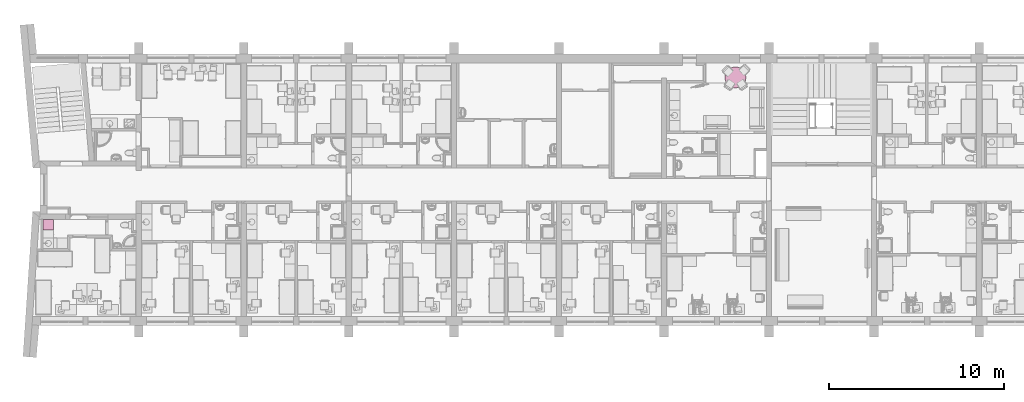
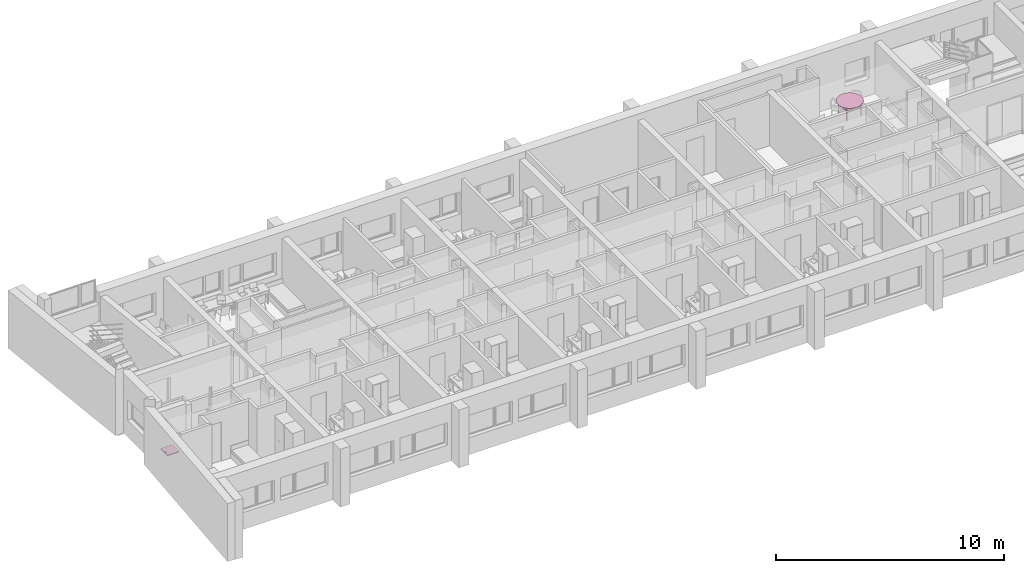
# One storey, part 171 of 172: 2 furnishings.
"""IFC2X3 building model written with IfcOpenShell, lengths in millimetres."""

from ifc_helpers import new_model, entity, si_unit, converted_unit, money_unit, direction, frame, origin_with_axes, place, context, subcontext, project, spatial, faceted_brep, material, material_list, type_object, element, save


model = new_model("IFC2X3")

# Units and contexts
model_context = context("Model", 3, precision=1e-05, world=origin_with_axes(), true_north=direction((0.0, 1.0)))
body_context = subcontext(model_context, "Body", "Model", "MODEL_VIEW")
ifc_project = project(units=[si_unit("LENGTHUNIT", "METRE", prefix="MILLI"), si_unit("AREAUNIT", "SQUARE_METRE"), si_unit("VOLUMEUNIT", "CUBIC_METRE"), converted_unit("PLANEANGLEUNIT", "DEGREE", entity("IfcPlaneAngleMeasure", 0.0174532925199), si_unit("PLANEANGLEUNIT", "RADIAN"), dimensions=[0, 0, 0, 0, 0, 0, 0]), si_unit("SOLIDANGLEUNIT", "STERADIAN"), money_unit("USD"), converted_unit("TIMEUNIT", "Year", entity("IfcTimeMeasure", 31556926.0), si_unit("TIMEUNIT", "SECOND"), dimensions=[0, 0, 0, 0, 0, 0, 0]), si_unit("MASSUNIT", "GRAM"), si_unit("THERMODYNAMICTEMPERATUREUNIT", "DEGREE_CELSIUS"), si_unit("LUMINOUSINTENSITYUNIT", "LUMEN")], contexts=[model_context])

# Site, building, storey
site_placement = place(None, origin_with_axes())
site = spatial("IfcSite", under=ifc_project, at=site_placement, Name="Site", CompositionType="ELEMENT")
building_placement = place(site_placement, origin_with_axes())
building = spatial("IfcBuilding", under=site, at=building_placement, Name="Building", CompositionType="ELEMENT")
storey_placement = place(building_placement, frame((0.0, 0.0, 3200.0), z_axis=(0.0, 0.0, 1.0), x_axis=(1.0, 0.0, 0.0)))
storey = spatial("IfcBuildingStorey", under=building, at=storey_placement, Name="3KORRUS", CompositionType="ELEMENT", Elevation=3200.0)

# Furnishings
ifc_material = material(Name="Background")
ifc_material_list = material_list([ifc_material])
furnishing_element_type_1 = type_object("IfcFurnishingElementType", Name="Built-in Cooktops 19")
furnishing_1_placement = place(storey_placement, frame((-53008.4921105, -14683.6487515, 0.0), z_axis=(0.0, 0.0, 1.0), x_axis=(0.0, 1.0, 0.0)))
element("IfcFurnishingElement", 1, at=furnishing_1_placement, inside=storey, type_object=furnishing_element_type_1, material=ifc_material_list, Name="FU - 007", context=body_context, shape_type="Brep", body=[
    faceted_brep([(0.0, 0.0, 850.0), (596.311, 0.0, 850.0), (596.311, 0.0, 900.0), (0.0, 0.0, 900.0), (0.0, 600.0, 850.0), (596.311, 600.0, 850.0), (596.311, 600.0, 900.0), (0.0, 600.0, 900.0)], [[[0, 1, 2, 3]], [[0, 4, 5, 1]], [[1, 5, 6, 2]], [[3, 2, 6, 7]], [[4, 0, 3, 7]], [[5, 4, 7, 6]]]),
    faceted_brep([(163.156, 55.0, 900.0), (163.156, 545.0, 900.0), (433.156, 545.0, 900.0), (433.156, 55.0, 900.0), (163.156, 55.0, 900.8), (163.156, 545.0, 900.8), (433.156, 545.0, 900.8), (433.156, 55.0, 900.8), (169.961, 61.806, 902.0), (169.961, 538.194, 902.0), (426.35, 538.194, 902.0), (426.35, 61.806, 902.0)], [[[0, 1, 2, 3]], [[1, 0, 4, 5]], [[2, 1, 5, 6]], [[3, 2, 6, 7]], [[0, 3, 7, 4]], [[5, 4, 8, 9]], [[6, 5, 9, 10]], [[7, 6, 10, 11]], [[4, 7, 11, 8]], [[10, 9, 8, 11]]]),
    faceted_brep([(193.156, 409.27, 902.0), (207.223, 356.77, 902.0), (207.223, 356.77, 903.0), (193.156, 409.27, 903.0), (207.223, 461.77, 902.0), (245.656, 500.203, 902.0), (298.156, 514.27, 902.0), (350.656, 500.203, 902.0), (389.088, 461.77, 902.0), (403.156, 409.27, 902.0), (389.088, 356.77, 902.0), (350.656, 318.337, 902.0), (298.156, 304.27, 902.0), (245.656, 318.337, 902.0), (198.156, 409.27, 902.0), (211.553, 359.27, 902.0), (248.156, 322.667, 902.0), (298.156, 309.27, 902.0), (348.156, 322.667, 902.0), (384.758, 359.27, 902.0), (398.156, 409.27, 902.0), (384.758, 459.27, 902.0), (348.156, 495.873, 902.0), (298.156, 509.27, 902.0), (248.156, 495.873, 902.0), (211.553, 459.27, 902.0), (245.656, 318.337, 903.0), (298.156, 304.27, 903.0), (350.656, 318.337, 903.0), (389.088, 356.77, 903.0), (403.156, 409.27, 903.0), (389.088, 461.77, 903.0), (350.656, 500.203, 903.0), (298.156, 514.27, 903.0), (245.656, 500.203, 903.0), (207.223, 461.77, 903.0), (198.156, 409.27, 903.0), (211.553, 459.27, 903.0), (248.156, 495.873, 903.0), (298.156, 509.27, 903.0), (348.156, 495.873, 903.0), (384.758, 459.27, 903.0), (398.156, 409.27, 903.0), (384.758, 359.27, 903.0), (348.156, 322.667, 903.0), (298.156, 309.27, 903.0), (248.156, 322.667, 903.0), (211.553, 359.27, 903.0)], [[[0, 1, 2, 3]], [[0, 4, 5, 6, 7, 8, 9, 10, 11, 12, 13, 1], [14, 15, 16, 17, 18, 19, 20, 21, 22, 23, 24, 25]], [[1, 13, 26, 2]], [[3, 2, 26, 27, 28, 29, 30, 31, 32, 33, 34, 35], [36, 37, 38, 39, 40, 41, 42, 43, 44, 45, 46, 47]], [[4, 0, 3, 35]], [[5, 4, 35, 34]], [[6, 5, 34, 33]], [[7, 6, 33, 32]], [[8, 7, 32, 31]], [[9, 8, 31, 30]], [[10, 9, 30, 29]], [[11, 10, 29, 28]], [[12, 11, 28, 27]], [[13, 12, 27, 26]], [[15, 14, 36, 47]], [[16, 15, 47, 46]], [[17, 16, 46, 45]], [[18, 17, 45, 44]], [[19, 18, 44, 43]], [[20, 19, 43, 42]], [[21, 20, 42, 41]], [[22, 21, 41, 40]], [[23, 22, 40, 39]], [[24, 23, 39, 38]], [[25, 24, 38, 37]], [[14, 25, 37, 36]]]),
    faceted_brep([(225.656, 200.53, 902.0), (235.369, 164.28, 902.0), (235.369, 164.28, 903.0), (225.656, 200.53, 903.0), (235.369, 236.78, 902.0), (261.906, 263.317, 902.0), (298.156, 273.03, 902.0), (334.406, 263.317, 902.0), (360.942, 236.78, 902.0), (370.656, 200.53, 902.0), (360.942, 164.28, 902.0), (334.406, 137.743, 902.0), (298.156, 128.03, 902.0), (261.906, 137.743, 902.0), (230.656, 200.53, 902.0), (239.699, 166.78, 902.0), (264.406, 142.073, 902.0), (298.156, 133.03, 902.0), (331.906, 142.073, 902.0), (356.612, 166.78, 902.0), (365.656, 200.53, 902.0), (356.612, 234.28, 902.0), (331.906, 258.987, 902.0), (298.156, 268.03, 902.0), (264.406, 258.987, 902.0), (239.699, 234.28, 902.0), (261.906, 137.743, 903.0), (298.156, 128.03, 903.0), (334.406, 137.743, 903.0), (360.942, 164.28, 903.0), (370.656, 200.53, 903.0), (360.942, 236.78, 903.0), (334.406, 263.317, 903.0), (298.156, 273.03, 903.0), (261.906, 263.317, 903.0), (235.369, 236.78, 903.0), (230.656, 200.53, 903.0), (239.699, 234.28, 903.0), (264.406, 258.987, 903.0), (298.156, 268.03, 903.0), (331.906, 258.987, 903.0), (356.612, 234.28, 903.0), (365.656, 200.53, 903.0), (356.612, 166.78, 903.0), (331.906, 142.073, 903.0), (298.156, 133.03, 903.0), (264.406, 142.073, 903.0), (239.699, 166.78, 903.0)], [[[0, 1, 2, 3]], [[0, 4, 5, 6, 7, 8, 9, 10, 11, 12, 13, 1], [14, 15, 16, 17, 18, 19, 20, 21, 22, 23, 24, 25]], [[1, 13, 26, 2]], [[3, 2, 26, 27, 28, 29, 30, 31, 32, 33, 34, 35], [36, 37, 38, 39, 40, 41, 42, 43, 44, 45, 46, 47]], [[4, 0, 3, 35]], [[5, 4, 35, 34]], [[6, 5, 34, 33]], [[7, 6, 33, 32]], [[8, 7, 32, 31]], [[9, 8, 31, 30]], [[10, 9, 30, 29]], [[11, 10, 29, 28]], [[12, 11, 28, 27]], [[13, 12, 27, 26]], [[15, 14, 36, 47]], [[16, 15, 47, 46]], [[17, 16, 46, 45]], [[18, 17, 45, 44]], [[19, 18, 44, 43]], [[20, 19, 43, 42]], [[21, 20, 42, 41]], [[22, 21, 41, 40]], [[23, 22, 40, 39]], [[24, 23, 39, 38]], [[25, 24, 38, 37]], [[14, 25, 37, 36]]]),
])
furnishing_element_type_2 = type_object("IfcFurnishingElementType", Name="Round Table 01 19")
furnishing_2_placement = place(storey_placement, frame((-14063.97146, -5976.75344448, 0.0), z_axis=(0.0, 0.0, 1.0), x_axis=(0.0, 1.0, 0.0)))
element("IfcFurnishingElement", 2, at=furnishing_2_placement, inside=storey, type_object=furnishing_element_type_2, material=ifc_material_list, Name="FU - 004", context=body_context, shape_type="Brep", body=[
    faceted_brep([(383.909, 373.909, 0.0), (383.909, 343.909, 0.0), (333.909, 343.909, 0.0), (333.909, 373.909, 0.0), (383.909, 373.909, 725.0), (383.909, 343.909, 725.0), (333.909, 343.909, 725.0), (333.909, 373.909, 725.0)], [[[0, 1, 2, 3]], [[1, 0, 4, 5]], [[2, 1, 5, 6]], [[3, 2, 6, 7]], [[0, 3, 7, 4]], [[5, 4, 7, 6]]]),
    faceted_brep([(-333.909, 373.909, 0.0), (-333.909, 343.909, 0.0), (-383.909, 343.909, 0.0), (-383.909, 373.909, 0.0), (-333.909, 373.909, 725.0), (-333.909, 343.909, 725.0), (-383.909, 343.909, 725.0), (-383.909, 373.909, 725.0)], [[[0, 1, 2, 3]], [[1, 0, 4, 5]], [[2, 1, 5, 6]], [[3, 2, 6, 7]], [[0, 3, 7, 4]], [[5, 4, 7, 6]]]),
    faceted_brep([(-383.909, -373.909, 0.0), (-383.909, -343.909, 0.0), (-333.909, -343.909, 0.0), (-333.909, -373.909, 0.0), (-383.909, -373.909, 725.0), (-383.909, -343.909, 725.0), (-333.909, -343.909, 725.0), (-333.909, -373.909, 725.0)], [[[0, 1, 2, 3]], [[1, 0, 4, 5]], [[2, 1, 5, 6]], [[3, 2, 6, 7]], [[0, 3, 7, 4]], [[5, 4, 7, 6]]]),
    faceted_brep([(333.909, -373.909, 0.0), (333.909, -343.909, 0.0), (383.909, -343.909, 0.0), (383.909, -373.909, 0.0), (333.909, -373.909, 725.0), (333.909, -343.909, 725.0), (383.909, -343.909, 725.0), (383.909, -373.909, 725.0)], [[[0, 1, 2, 3]], [[1, 0, 4, 5]], [[2, 1, 5, 6]], [[3, 2, 6, 7]], [[0, 3, 7, 4]], [[5, 4, 7, 6]]]),
    faceted_brep([(580.0, 0.0, 725.0), (567.326, 120.589, 725.0), (567.326, 120.589, 750.0), (580.0, 0.0, 750.0), (567.326, -120.589, 725.0), (529.856, -235.907, 725.0), (469.23, -340.915, 725.0), (388.096, -431.024, 725.0), (290.0, -502.295, 725.0), (179.23, -551.613, 725.0), (60.627, -576.823, 725.0), (-60.627, -576.823, 725.0), (-179.23, -551.613, 725.0), (-290.0, -502.295, 725.0), (-388.096, -431.024, 725.0), (-469.23, -340.915, 725.0), (-529.856, -235.907, 725.0), (-567.326, -120.589, 725.0), (-580.0, 0.0, 725.0), (-567.326, 120.589, 725.0), (-529.856, 235.907, 725.0), (-469.23, 340.915, 725.0), (-388.096, 431.024, 725.0), (-290.0, 502.295, 725.0), (-179.23, 551.613, 725.0), (-60.627, 576.823, 725.0), (60.627, 576.823, 725.0), (179.23, 551.613, 725.0), (290.0, 502.295, 725.0), (388.096, 431.024, 725.0), (469.23, 340.915, 725.0), (529.856, 235.907, 725.0), (529.856, 235.907, 750.0), (469.23, 340.915, 750.0), (388.096, 431.024, 750.0), (290.0, 502.295, 750.0), (179.23, 551.613, 750.0), (60.627, 576.823, 750.0), (-60.627, 576.823, 750.0), (-179.23, 551.613, 750.0), (-290.0, 502.295, 750.0), (-388.096, 431.024, 750.0), (-469.23, 340.915, 750.0), (-529.856, 235.907, 750.0), (-567.326, 120.589, 750.0), (-580.0, 0.0, 750.0), (-567.326, -120.589, 750.0), (-529.856, -235.907, 750.0), (-469.23, -340.915, 750.0), (-388.096, -431.024, 750.0), (-290.0, -502.295, 750.0), (-179.23, -551.613, 750.0), (-60.627, -576.823, 750.0), (60.627, -576.823, 750.0), (179.23, -551.613, 750.0), (290.0, -502.295, 750.0), (388.096, -431.024, 750.0), (469.23, -340.915, 750.0), (529.856, -235.907, 750.0), (567.326, -120.589, 750.0)], [[[0, 1, 2, 3]], [[0, 4, 5, 6, 7, 8, 9, 10, 11, 12, 13, 14, 15, 16, 17, 18, 19, 20, 21, 22, 23, 24, 25, 26, 27, 28, 29, 30, 31, 1]], [[1, 31, 32, 2]], [[3, 2, 32, 33, 34, 35, 36, 37, 38, 39, 40, 41, 42, 43, 44, 45, 46, 47, 48, 49, 50, 51, 52, 53, 54, 55, 56, 57, 58, 59]], [[4, 0, 3, 59]], [[5, 4, 59, 58]], [[6, 5, 58, 57]], [[7, 6, 57, 56]], [[8, 7, 56, 55]], [[9, 8, 55, 54]], [[10, 9, 54, 53]], [[11, 10, 53, 52]], [[12, 11, 52, 51]], [[13, 12, 51, 50]], [[14, 13, 50, 49]], [[15, 14, 49, 48]], [[16, 15, 48, 47]], [[17, 16, 47, 46]], [[18, 17, 46, 45]], [[19, 18, 45, 44]], [[20, 19, 44, 43]], [[21, 20, 43, 42]], [[22, 21, 42, 41]], [[23, 22, 41, 40]], [[24, 23, 40, 39]], [[25, 24, 39, 38]], [[26, 25, 38, 37]], [[27, 26, 37, 36]], [[28, 27, 36, 35]], [[29, 28, 35, 34]], [[30, 29, 34, 33]], [[31, 30, 33, 32]]]),
    faceted_brep([(600.0, 0.0, 725.0), (586.889, 124.747, 725.0), (586.889, 124.747, 750.0), (600.0, 0.0, 750.0), (586.889, -124.747, 725.0), (548.127, -244.042, 725.0), (485.41, -352.671, 725.0), (401.478, -445.887, 725.0), (300.0, -519.615, 725.0), (185.41, -570.634, 725.0), (62.717, -596.713, 725.0), (-62.717, -596.713, 725.0), (-185.41, -570.634, 725.0), (-300.0, -519.615, 725.0), (-401.478, -445.887, 725.0), (-485.41, -352.671, 725.0), (-548.127, -244.042, 725.0), (-586.889, -124.747, 725.0), (-600.0, 0.0, 725.0), (-586.889, 124.747, 725.0), (-548.127, 244.042, 725.0), (-485.41, 352.671, 725.0), (-401.478, 445.887, 725.0), (-300.0, 519.615, 725.0), (-185.41, 570.634, 725.0), (-62.717, 596.713, 725.0), (62.717, 596.713, 725.0), (185.41, 570.634, 725.0), (300.0, 519.615, 725.0), (401.478, 445.887, 725.0), (485.41, 352.671, 725.0), (548.127, 244.042, 725.0), (580.0, 0.0, 725.0), (567.326, 120.589, 725.0), (529.856, 235.907, 725.0), (469.23, 340.915, 725.0), (388.096, 431.024, 725.0), (290.0, 502.295, 725.0), (179.23, 551.613, 725.0), (60.627, 576.823, 725.0), (-60.627, 576.823, 725.0), (-179.23, 551.613, 725.0), (-290.0, 502.295, 725.0), (-388.096, 431.024, 725.0), (-469.23, 340.915, 725.0), (-529.856, 235.907, 725.0), (-567.326, 120.589, 725.0), (-580.0, 0.0, 725.0), (-567.326, -120.589, 725.0), (-529.856, -235.907, 725.0), (-469.23, -340.915, 725.0), (-388.096, -431.024, 725.0), (-290.0, -502.295, 725.0), (-179.23, -551.613, 725.0), (-60.627, -576.823, 725.0), (60.627, -576.823, 725.0), (179.23, -551.613, 725.0), (290.0, -502.295, 725.0), (388.096, -431.024, 725.0), (469.23, -340.915, 725.0), (529.856, -235.907, 725.0), (567.326, -120.589, 725.0), (548.127, 244.042, 750.0), (485.41, 352.671, 750.0), (401.478, 445.887, 750.0), (300.0, 519.615, 750.0), (185.41, 570.634, 750.0), (62.717, 596.713, 750.0), (-62.717, 596.713, 750.0), (-185.41, 570.634, 750.0), (-300.0, 519.615, 750.0), (-401.478, 445.887, 750.0), (-485.41, 352.671, 750.0), (-548.127, 244.042, 750.0), (-586.889, 124.747, 750.0), (-600.0, 0.0, 750.0), (-586.889, -124.747, 750.0), (-548.127, -244.042, 750.0), (-485.41, -352.671, 750.0), (-401.478, -445.887, 750.0), (-300.0, -519.615, 750.0), (-185.41, -570.634, 750.0), (-62.717, -596.713, 750.0), (62.717, -596.713, 750.0), (185.41, -570.634, 750.0), (300.0, -519.615, 750.0), (401.478, -445.887, 750.0), (485.41, -352.671, 750.0), (548.127, -244.042, 750.0), (586.889, -124.747, 750.0), (580.0, 0.0, 750.0), (567.326, -120.589, 750.0), (529.856, -235.907, 750.0), (469.23, -340.915, 750.0), (388.096, -431.024, 750.0), (290.0, -502.295, 750.0), (179.23, -551.613, 750.0), (60.627, -576.823, 750.0), (-60.627, -576.823, 750.0), (-179.23, -551.613, 750.0), (-290.0, -502.295, 750.0), (-388.096, -431.024, 750.0), (-469.23, -340.915, 750.0), (-529.856, -235.907, 750.0), (-567.326, -120.589, 750.0), (-580.0, 0.0, 750.0), (-567.326, 120.589, 750.0), (-529.856, 235.907, 750.0), (-469.23, 340.915, 750.0), (-388.096, 431.024, 750.0), (-290.0, 502.295, 750.0), (-179.23, 551.613, 750.0), (-60.627, 576.823, 750.0), (60.627, 576.823, 750.0), (179.23, 551.613, 750.0), (290.0, 502.295, 750.0), (388.096, 431.024, 750.0), (469.23, 340.915, 750.0), (529.856, 235.907, 750.0), (567.326, 120.589, 750.0)], [[[0, 1, 2, 3]], [[0, 4, 5, 6, 7, 8, 9, 10, 11, 12, 13, 14, 15, 16, 17, 18, 19, 20, 21, 22, 23, 24, 25, 26, 27, 28, 29, 30, 31, 1], [32, 33, 34, 35, 36, 37, 38, 39, 40, 41, 42, 43, 44, 45, 46, 47, 48, 49, 50, 51, 52, 53, 54, 55, 56, 57, 58, 59, 60, 61]], [[1, 31, 62, 2]], [[3, 2, 62, 63, 64, 65, 66, 67, 68, 69, 70, 71, 72, 73, 74, 75, 76, 77, 78, 79, 80, 81, 82, 83, 84, 85, 86, 87, 88, 89], [90, 91, 92, 93, 94, 95, 96, 97, 98, 99, 100, 101, 102, 103, 104, 105, 106, 107, 108, 109, 110, 111, 112, 113, 114, 115, 116, 117, 118, 119]], [[4, 0, 3, 89]], [[5, 4, 89, 88]], [[6, 5, 88, 87]], [[7, 6, 87, 86]], [[8, 7, 86, 85]], [[9, 8, 85, 84]], [[10, 9, 84, 83]], [[11, 10, 83, 82]], [[12, 11, 82, 81]], [[13, 12, 81, 80]], [[14, 13, 80, 79]], [[15, 14, 79, 78]], [[16, 15, 78, 77]], [[17, 16, 77, 76]], [[18, 17, 76, 75]], [[19, 18, 75, 74]], [[20, 19, 74, 73]], [[21, 20, 73, 72]], [[22, 21, 72, 71]], [[23, 22, 71, 70]], [[24, 23, 70, 69]], [[25, 24, 69, 68]], [[26, 25, 68, 67]], [[27, 26, 67, 66]], [[28, 27, 66, 65]], [[29, 28, 65, 64]], [[30, 29, 64, 63]], [[31, 30, 63, 62]], [[33, 32, 90, 119]], [[34, 33, 119, 118]], [[35, 34, 118, 117]], [[36, 35, 117, 116]], [[37, 36, 116, 115]], [[38, 37, 115, 114]], [[39, 38, 114, 113]], [[40, 39, 113, 112]], [[41, 40, 112, 111]], [[42, 41, 111, 110]], [[43, 42, 110, 109]], [[44, 43, 109, 108]], [[45, 44, 108, 107]], [[46, 45, 107, 106]], [[47, 46, 106, 105]], [[48, 47, 105, 104]], [[49, 48, 104, 103]], [[50, 49, 103, 102]], [[51, 50, 102, 101]], [[52, 51, 101, 100]], [[53, 52, 100, 99]], [[54, 53, 99, 98]], [[55, 54, 98, 97]], [[56, 55, 97, 96]], [[57, 56, 96, 95]], [[58, 57, 95, 94]], [[59, 58, 94, 93]], [[60, 59, 93, 92]], [[61, 60, 92, 91]], [[32, 61, 91, 90]]]),
    faceted_brep([(378.302, -373.909, 500.0), (378.302, -373.909, 550.0), (378.302, -378.302, 550.0), (378.302, -378.302, 500.0), (333.909, -373.909, 550.0), (333.909, -373.909, 500.0), (333.909, -348.302, 550.0), (-333.909, -348.302, 550.0), (-333.909, -373.909, 550.0), (-378.302, -373.909, 550.0), (-378.302, -378.302, 550.0), (-378.302, -378.302, 500.0), (-378.302, -373.909, 500.0), (-333.909, -373.909, 500.0), (-333.909, -348.302, 500.0), (333.909, -348.302, 500.0)], [[[0, 1, 2, 3]], [[4, 1, 0, 5]], [[4, 6, 7, 8, 9, 10, 2, 1]], [[11, 3, 2, 10]], [[5, 0, 3, 11, 12, 13, 14, 15]], [[15, 6, 4, 5]], [[6, 15, 14, 7]], [[14, 13, 8, 7]], [[13, 12, 9, 8]], [[11, 10, 9, 12]]]),
    faceted_brep([(-378.302, 378.302, 550.0), (-378.302, 373.909, 550.0), (-333.909, 373.909, 550.0), (-333.909, 348.302, 550.0), (333.909, 348.302, 550.0), (333.909, 373.909, 550.0), (378.302, 373.909, 550.0), (378.302, 378.302, 550.0), (-378.302, 378.302, 500.0), (-378.302, 373.909, 500.0), (-333.909, 373.909, 500.0), (-333.909, 348.302, 500.0), (333.909, 348.302, 500.0), (333.909, 373.909, 500.0), (378.302, 373.909, 500.0), (378.302, 378.302, 500.0)], [[[0, 1, 2, 3, 4, 5, 6, 7]], [[0, 8, 9, 1]], [[9, 10, 2, 1]], [[10, 11, 3, 2]], [[12, 4, 3, 11]], [[5, 4, 12, 13]], [[14, 6, 5, 13]], [[6, 14, 15, 7]], [[0, 7, 15, 8]], [[12, 11, 10, 9, 8, 15, 14, 13]]]),
    faceted_brep([(-378.302, 343.909, 550.0), (-378.302, -343.909, 550.0), (-348.302, -343.909, 550.0), (-348.302, 343.909, 550.0), (-378.302, 343.909, 500.0), (-378.302, -343.909, 500.0), (-348.302, -343.909, 500.0), (-348.302, 343.909, 500.0)], [[[0, 1, 2, 3]], [[4, 5, 1, 0]], [[5, 6, 2, 1]], [[3, 2, 6, 7]], [[3, 7, 4, 0]], [[7, 6, 5, 4]]]),
    faceted_brep([(348.302, -343.909, 550.0), (378.302, -343.909, 550.0), (378.302, 343.909, 550.0), (348.302, 343.909, 550.0), (378.302, -343.909, 500.0), (348.302, -343.909, 500.0), (378.302, 343.909, 500.0), (348.302, 343.909, 500.0)], [[[0, 1, 2, 3]], [[4, 1, 0, 5]], [[1, 4, 6, 2]], [[6, 7, 3, 2]], [[5, 0, 3, 7]], [[4, 5, 7, 6]]]),
])

save(model, "model.ifc")
